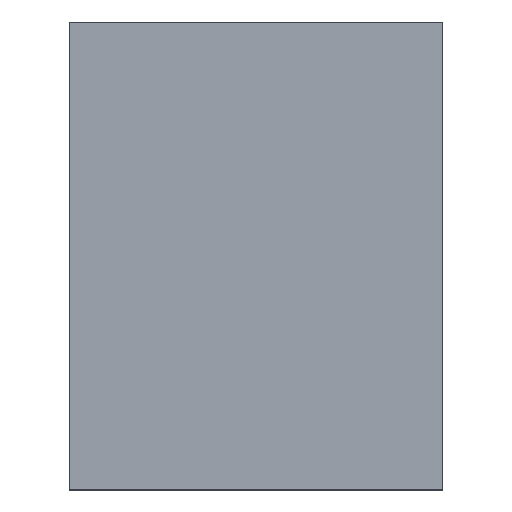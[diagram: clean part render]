
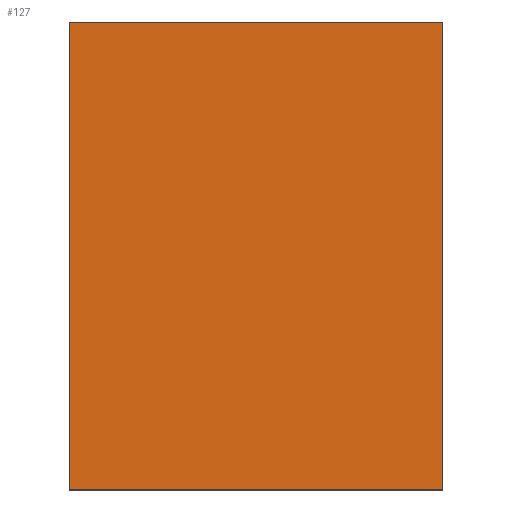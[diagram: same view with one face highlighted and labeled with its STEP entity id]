
A CAD part, top view. The second image highlights one B-rep face of the part: STEP entity #127.
In plain terms, the highlighted planar face has unit normal (0, 0, 1).
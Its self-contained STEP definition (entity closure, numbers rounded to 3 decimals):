
#7 = DIRECTION ( 'NONE',  ( -1., 0., 0. ) ) ;
#37 = EDGE_CURVE ( 'NONE', #62, #252, #389, .T. ) ;
#42 = CARTESIAN_POINT ( 'NONE',  ( -5., 12.5, 5. ) ) ;
#53 = VERTEX_POINT ( 'NONE', #232 ) ;
#58 = CARTESIAN_POINT ( 'NONE',  ( -5., 0., 5. ) ) ;
#62 = VERTEX_POINT ( 'NONE', #336 ) ;
#81 = VECTOR ( 'NONE', #269, 1000. ) ;
#83 = EDGE_LOOP ( 'NONE', ( #479, #233, #218, #393 ) ) ;
#89 = LINE ( 'NONE', #165, #171 ) ;
#116 = DIRECTION ( 'NONE',  ( 0., -1., 0. ) ) ;
#127 = ADVANCED_FACE ( 'NONE', ( #421 ), #226, .F. ) ;
#155 = CARTESIAN_POINT ( 'NONE',  ( 5., 12.5, 5. ) ) ;
#165 = CARTESIAN_POINT ( 'NONE',  ( -5., 12.5, 5. ) ) ;
#171 = VECTOR ( 'NONE', #205, 1000. ) ;
#196 = CARTESIAN_POINT ( 'NONE',  ( -5., 12.5, 5. ) ) ;
#201 = EDGE_CURVE ( 'NONE', #53, #252, #448, .T. ) ;
#205 = DIRECTION ( 'NONE',  ( 1., 0., 0. ) ) ;
#207 = DIRECTION ( 'NONE',  ( 1., 0., 0. ) ) ;
#218 = ORIENTED_EDGE ( 'NONE', *, *, #274, .F. ) ;
#226 = PLANE ( 'NONE',  #352 ) ;
#232 = CARTESIAN_POINT ( 'NONE',  ( 5., 12.5, 5. ) ) ;
#233 = ORIENTED_EDGE ( 'NONE', *, *, #201, .F. ) ;
#252 = VERTEX_POINT ( 'NONE', #271 ) ;
#259 = CARTESIAN_POINT ( 'NONE',  ( -5., 12.5, 5. ) ) ;
#269 = DIRECTION ( 'NONE',  ( 0., -1., 0. ) ) ;
#271 = CARTESIAN_POINT ( 'NONE',  ( 5., 0., 5. ) ) ;
#274 = EDGE_CURVE ( 'NONE', #365, #53, #89, .T. ) ;
#310 = EDGE_CURVE ( 'NONE', #365, #62, #388, .T. ) ;
#329 = VECTOR ( 'NONE', #207, 1000. ) ;
#334 = DIRECTION ( 'NONE',  ( 0., 0., -1. ) ) ;
#336 = CARTESIAN_POINT ( 'NONE',  ( -5., 0., 5. ) ) ;
#352 = AXIS2_PLACEMENT_3D ( 'NONE', #42, #334, #7 ) ;
#365 = VERTEX_POINT ( 'NONE', #259 ) ;
#368 = VECTOR ( 'NONE', #116, 1000. ) ;
#388 = LINE ( 'NONE', #196, #81 ) ;
#389 = LINE ( 'NONE', #58, #329 ) ;
#393 = ORIENTED_EDGE ( 'NONE', *, *, #310, .T. ) ;
#421 = FACE_OUTER_BOUND ( 'NONE', #83, .T. ) ;
#448 = LINE ( 'NONE', #155, #368 ) ;
#479 = ORIENTED_EDGE ( 'NONE', *, *, #37, .T. ) ;
